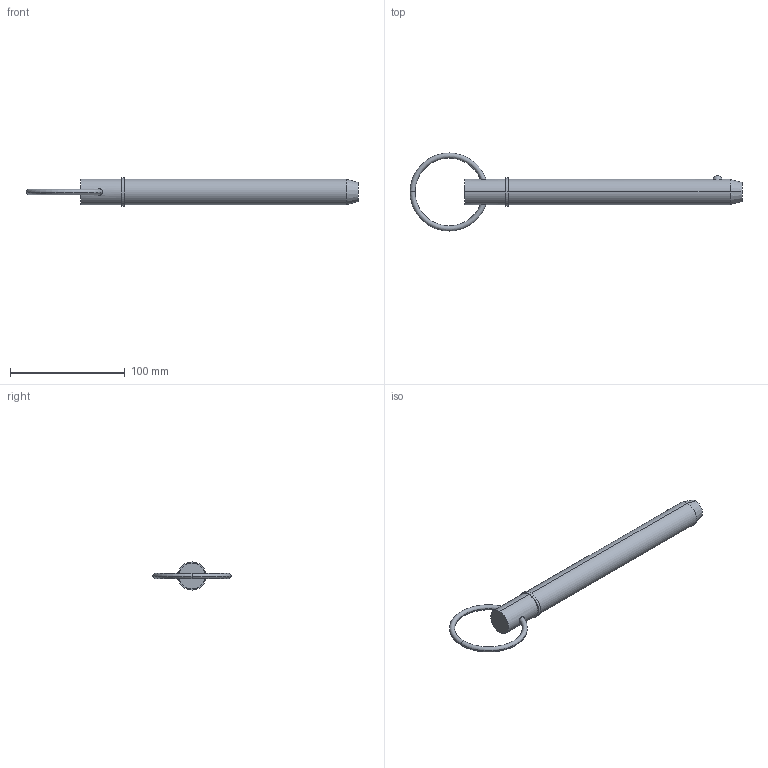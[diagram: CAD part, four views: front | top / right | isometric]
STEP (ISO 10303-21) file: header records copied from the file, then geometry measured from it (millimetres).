
FILE_DESCRIPTION (( 'STEP AP203' ), '1' );
FILE_NAME ('33014.W8870.step', '2024-11-04T08:38:35', ( '' ), ( '' ), 'SwSTEP 2.0', 'SolidWorks 2019', '' );
FILE_SCHEMA (( 'CONFIG_CONTROL_DESIGN' ));
Length unit declared in the file: millimetre
Products named in the file (3): Part1_33014.W8870; 33014.W8870; Part2_33014.W8870
Assembly tree (2 placements, depth 2):
  33014.W8870
    Part1_33014.W8870
    Part2_33014.W8870
Bounding box: 288.91 x 67.95 x 24.45 mm (x, y, z)
Volume: 95567.1 mm3; surface area: 20730 mm2
Topology: 2 solids, 2 shells, 22 faces, 43 edges, 26 vertices
Faces by surface type: torus 8, cylinder 6, plane 4, sphere 2, cone 2
Entity records: 1065 total; most frequent: CARTESIAN_POINT 288, DIRECTION 120, ORIENTED_EDGE 86, AXIS2_PLACEMENT_3D 56, EDGE_CURVE 43, CIRCLE 29, EDGE_LOOP 27, PERSON_AND_ORGANIZATION 26
